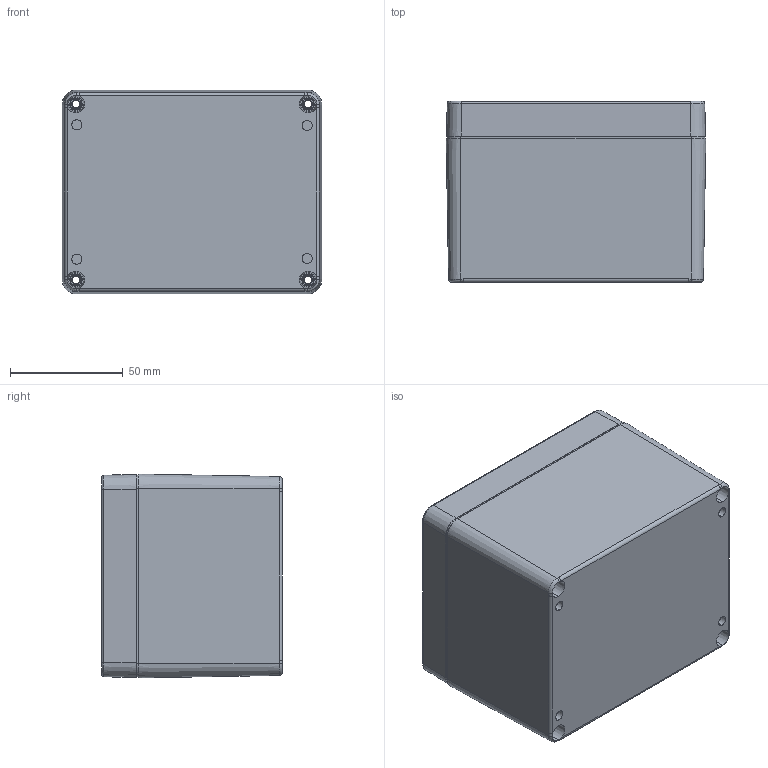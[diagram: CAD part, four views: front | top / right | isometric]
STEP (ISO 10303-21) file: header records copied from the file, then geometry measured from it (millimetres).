
FILE_DESCRIPTION (( 'STEP AP203' ), '1' );
FILE_NAME ('PE224.STEP', '2019-12-04T13:47:13', ( '' ), ( '' ), 'SwSTEP 2.0', 'SolidWorks 2020', '' );
FILE_SCHEMA (( 'CONFIG_CONTROL_DESIGN' ));
Length unit declared in the file: millimetre
Products named in the file (4): PE224
Assembly tree (3 placements, depth 2):
  PE224
    PE224
    PE224
    PE224
Bounding box: 115.27 x 80.3 x 90.47 mm (x, y, z)
Volume: 185616.6 mm3; surface area: 140800.4 mm2
Topology: 11 solids, 11 shells, 1338 faces, 3514 edges, 2262 vertices
Faces by surface type: bspline 452, cylinder 388, plane 288, cone 206, torus 4
Entity records: 46588 total; most frequent: CARTESIAN_POINT 15722, ORIENTED_EDGE 6992, DIRECTION 5526, EDGE_CURVE 3496, VERTEX_POINT 2262, AXIS2_PLACEMENT_3D 2046, EDGE_LOOP 1484, LINE 1434
